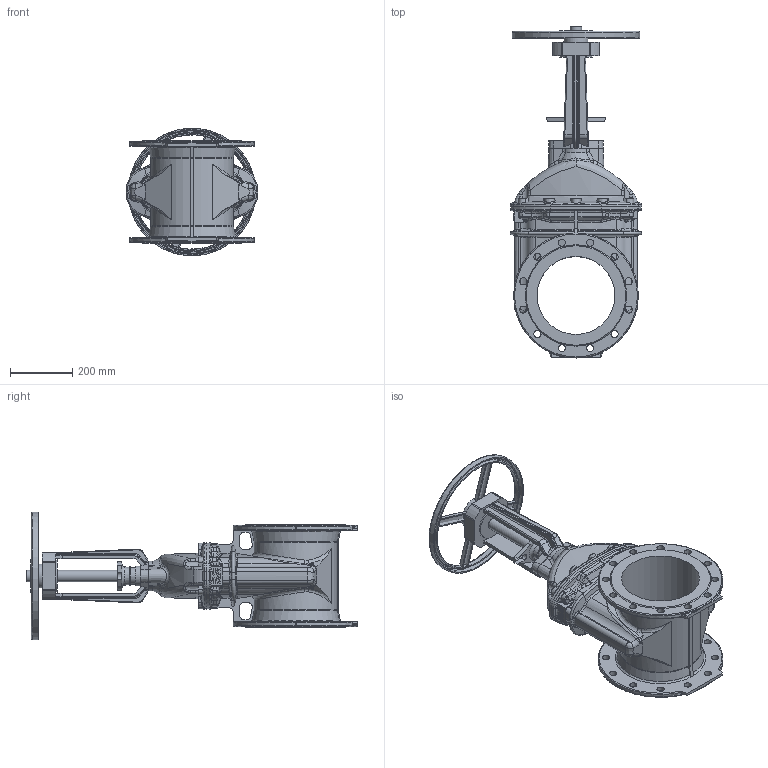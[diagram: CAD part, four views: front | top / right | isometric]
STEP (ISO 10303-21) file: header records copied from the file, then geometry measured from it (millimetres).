
FILE_DESCRIPTION (( 'STEP AP203' ), '1' );
FILE_NAME ('O_21_34_DN250_40XXXXX close_AA0.step', '2020-02-12T09:24:44', ( 'Windows User' ), ( 'AVK' ), 'SwSTEP 2.0', 'SolidWorks 2012', '' );
FILE_SCHEMA (( 'CONFIG_CONTROL_DESIGN' ));
Length unit declared in the file: millimetre
Products named in the file (1): O_21_34_DN250_40XXXXX close_AA0
Bounding box: 421.93 x 1064.5 x 409.45 mm (x, y, z)
Volume: 24859481.1 mm3; surface area: 1714956.3 mm2
Topology: 1 solids, 1 shells, 1053 faces, 2698 edges, 1657 vertices
Faces by surface type: bspline 348, plane 268, cylinder 195, cone 146, torus 94, sphere 2
Full cylindrical faces by diameter (mm): 23 x24, 36 x2, 51.9 x1, 58 x1, 64 x1, 77 x1, 105 x2, 250 x1
Entity records: 47114 total; most frequent: CARTESIAN_POINT 25017, ORIENTED_EDGE 5212, DIRECTION 3791, EDGE_CURVE 2606, VERTEX_POINT 1621, AXIS2_PLACEMENT_3D 1519, EDGE_LOOP 1185, FACE_OUTER_BOUND 1094
